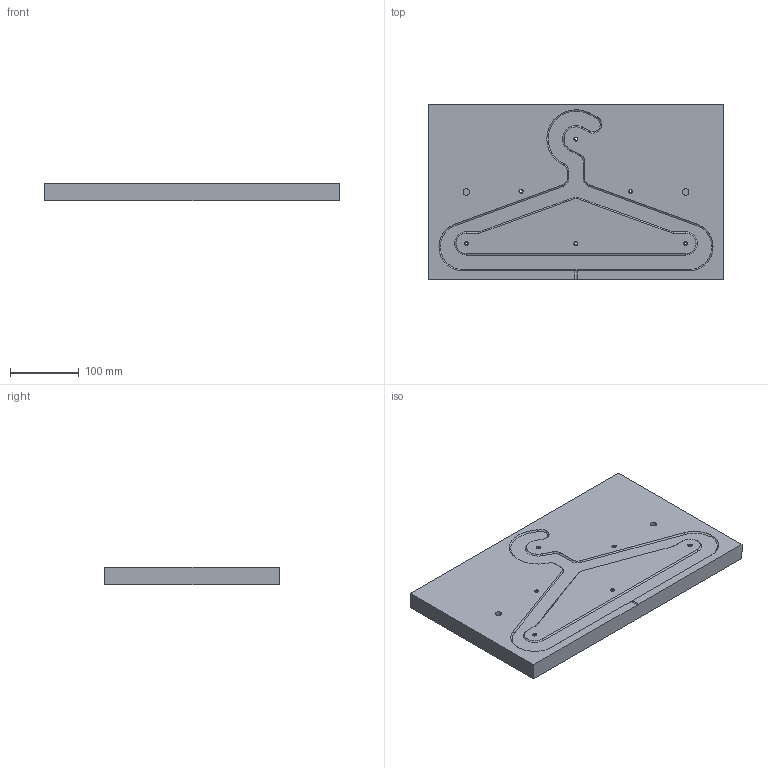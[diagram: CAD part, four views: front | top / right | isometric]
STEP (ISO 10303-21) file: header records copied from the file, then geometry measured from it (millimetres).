
FILE_DESCRIPTION (( 'STEP AP214' ), '1' );
FILE_NAME ('A without logo space.STEP', '2023-11-28T18:11:14', ( '' ), ( '' ), 'SwSTEP 2.0', 'SolidWorks 2018', '' );
FILE_SCHEMA (( 'AUTOMOTIVE_DESIGN' ));
Length unit declared in the file: millimetre
Products named in the file (1): A without logo space
Bounding box: 430 x 255 x 25.4 mm (x, y, z)
Volume: 2732232.2 mm3; surface area: 261408.4 mm2
Topology: 1 solids, 1 shells, 309 faces, 912 edges, 608 vertices
Faces by surface type: cylinder 264, bspline 18, torus 17, plane 10
Entity records: 32246 total; most frequent: CARTESIAN_POINT 25428, ORIENTED_EDGE 1824, DIRECTION 1040, EDGE_CURVE 912, VERTEX_POINT 608, AXIS2_PLACEMENT_3D 377, EDGE_LOOP 324, ADVANCED_FACE 309
